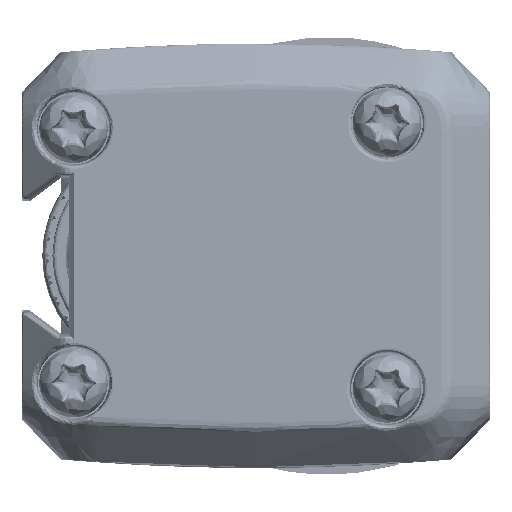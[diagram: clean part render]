
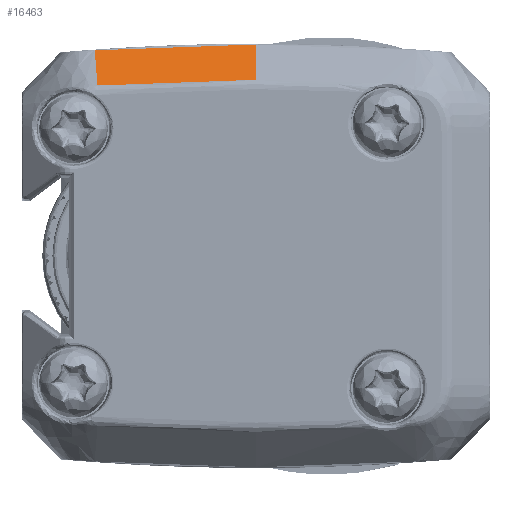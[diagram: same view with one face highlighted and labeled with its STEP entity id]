
A CAD part, left-side view. The second image highlights one B-rep face of the part: STEP entity #16463.
In plain terms, the highlighted free-form (B-spline) face has degree [3, 3] with [6, 4] control points.
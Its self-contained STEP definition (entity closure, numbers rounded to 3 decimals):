
#5778=CARTESIAN_POINT('',(11.288,-0.495,
254.67));
#5804=CARTESIAN_POINT('',(11.288,-0.495,
254.67));
#5805=CARTESIAN_POINT('',(11.288,2.893,254.67));
#5806=CARTESIAN_POINT('',(11.166,6.282,254.67));
#5807=CARTESIAN_POINT('',(10.92,9.66,254.67));
#6224=DIRECTION('',(0.695,0.057,-0.717));
#6225=VECTOR('',#6224,3.246);
#6226=CARTESIAN_POINT('',(10.92,9.66,254.67));
#6227=LINE('',#6226,#6225);
#7343=DIRECTION('',(-0.697,0.,0.717));
#7344=VECTOR('',#7343,3.247);
#7345=CARTESIAN_POINT('',(13.55,-0.495,
252.341));
#7346=LINE('',#7345,#7344);
#7367=CARTESIAN_POINT('',(13.175,9.846,252.342));
#7368=CARTESIAN_POINT('',(13.425,6.406,252.342));
#7369=CARTESIAN_POINT('',(13.55,2.955,252.341));
#7370=CARTESIAN_POINT('',(13.55,-0.495,
252.341));
#7376=CARTESIAN_POINT('',(13.175,9.846,252.342));
#7384=CARTESIAN_POINT('',(13.55,-0.495,
252.341));
#8446=VERTEX_POINT('',#5778);
#8448=VERTEX_POINT('',#5807);
#8453=VERTEX_POINT('',#7384);
#8455=VERTEX_POINT('',#7376);
#16431=CARTESIAN_POINT('',(13.595,-0.703,
252.294));
#16432=CARTESIAN_POINT('',(12.811,-0.701,
253.101));
#16433=CARTESIAN_POINT('',(12.026,-0.7,
253.908));
#16434=CARTESIAN_POINT('',(11.242,-0.699,
254.716));
#16435=CARTESIAN_POINT('',(13.595,-0.634,
252.294));
#16436=CARTESIAN_POINT('',(12.811,-0.633,
253.101));
#16437=CARTESIAN_POINT('',(12.027,-0.632,
253.908));
#16438=CARTESIAN_POINT('',(11.242,-0.631,
254.716));
#16439=CARTESIAN_POINT('',(13.598,2.887,252.294));
#16440=CARTESIAN_POINT('',(12.813,2.866,253.101));
#16441=CARTESIAN_POINT('',(12.029,2.845,253.908));
#16442=CARTESIAN_POINT('',(11.245,2.824,254.716));
#16443=CARTESIAN_POINT('',(13.468,6.477,252.294));
#16444=CARTESIAN_POINT('',(12.684,6.433,253.101));
#16445=CARTESIAN_POINT('',(11.901,6.39,253.908));
#16446=CARTESIAN_POINT('',(11.117,6.347,254.716));
#16447=CARTESIAN_POINT('',(13.211,9.988,252.294));
#16448=CARTESIAN_POINT('',(12.429,9.923,253.101));
#16449=CARTESIAN_POINT('',(11.647,9.858,253.908));
#16450=CARTESIAN_POINT('',(10.865,9.793,254.716));
#16451=CARTESIAN_POINT('',(13.206,10.057,252.294));
#16452=CARTESIAN_POINT('',(12.424,9.991,253.101));
#16453=CARTESIAN_POINT('',(11.642,9.926,253.908));
#16454=CARTESIAN_POINT('',(10.86,9.86,254.716));
#16455=B_SPLINE_SURFACE_WITH_KNOTS('',3,3,((#16431,#16432,#16433,#16434),
(#16435,#16436,#16437,#16438),(#16439,#16440,#16441,#16442),(#16443,#16444,
#16445,#16446),(#16447,#16448,#16449,#16450),(#16451,#16452,#16453,#16454)),
.UNSPECIFIED.,.F.,.F.,.F.,(4,1,1,4),(4,4),(-0.02,0.,1.,1.02),
(0.001,0.92),.UNSPECIFIED.);
#16456=ORIENTED_EDGE('',*,*,#10577,.T.);
#16457=ORIENTED_EDGE('',*,*,#11964,.T.);
#16459=ORIENTED_EDGE('',*,*,#16458,.T.);
#16460=ORIENTED_EDGE('',*,*,#16369,.T.);
#16461=EDGE_LOOP('',(#16456,#16457,#16459,#16460));
#16462=FACE_OUTER_BOUND('',#16461,.F.);
#16463=ADVANCED_FACE('',(#16462),#16455,.T.);
#5808=B_SPLINE_CURVE_WITH_KNOTS('',3,(#5804,#5805,#5806,#5807),.UNSPECIFIED.,
.F.,.F.,(4,4),(0.,1.),.UNSPECIFIED.);
#7371=B_SPLINE_CURVE_WITH_KNOTS('',3,(#7367,#7368,#7369,#7370),.UNSPECIFIED.,
.F.,.F.,(4,4),(0.,1.),.UNSPECIFIED.);
#10577=EDGE_CURVE('',#8446,#8448,#5808,.T.);
#11964=EDGE_CURVE('',#8448,#8455,#6227,.T.);
#16369=EDGE_CURVE('',#8453,#8446,#7346,.T.);
#16458=EDGE_CURVE('',#8455,#8453,#7371,.T.);
